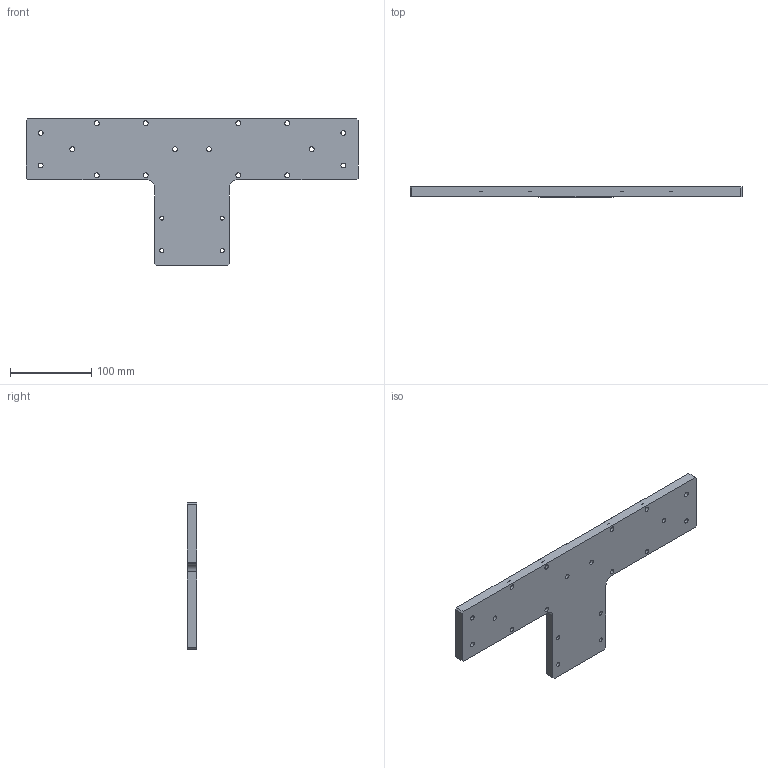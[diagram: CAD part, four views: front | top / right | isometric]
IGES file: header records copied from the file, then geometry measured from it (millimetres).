
Start section:  PTC IGES file: n60-n80l-ft.igs
Global section: file name: n60-n80l-ft.igs; native system: Pro/ENGINEER by Parametric Technology Corporation; preprocessor: 2008230; author: Owner; organization: Unknown; date: 20121212.114840; units: millimetre
Bounding box: 408 x 12 x 180 mm (x, y, z)
Surface area: 99325.6 mm2 (no closed solid volume)
Topology: 0 solids, 0 shells, 106 faces, 560 edges, 556 vertices
Faces by surface type: revolution 74, bspline 32
